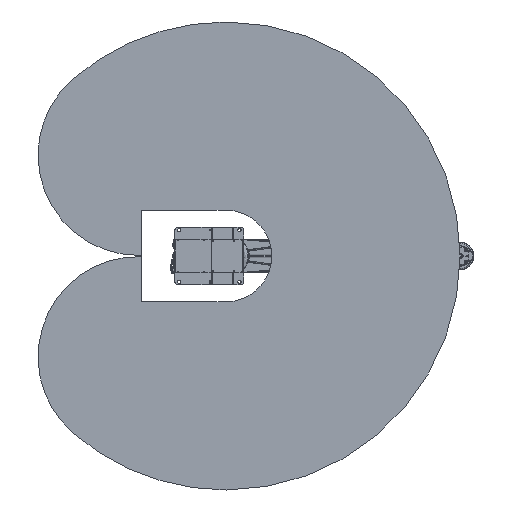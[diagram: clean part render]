
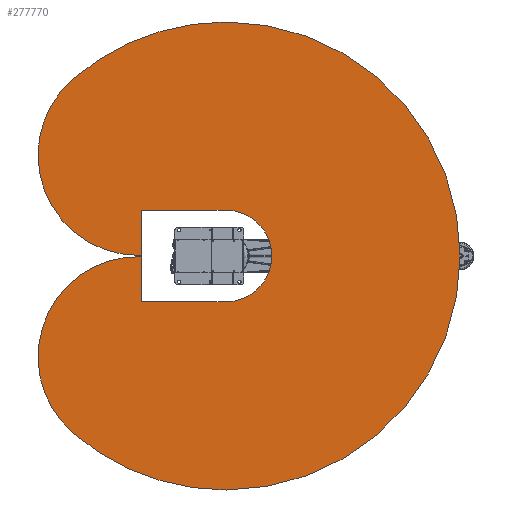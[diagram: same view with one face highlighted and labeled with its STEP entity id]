
A CAD part, front view. The second image highlights one B-rep face of the part: STEP entity #277770.
In plain terms, the highlighted planar face has unit normal (0, -1, 0).
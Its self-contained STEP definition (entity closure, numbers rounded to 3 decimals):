
#3058 = DIRECTION ( 'NONE',  ( 0., 0., 1. ) ) ;
#4814 = AXIS2_PLACEMENT_3D ( 'NONE', #194294, #52898, #218019 ) ;
#7958 = ORIENTED_EDGE ( 'NONE', *, *, #115625, .F. ) ;
#13749 = CIRCLE ( 'NONE', #297699, 450. ) ;
#26146 = EDGE_CURVE ( 'NONE', #130712, #76736, #246939, .T. ) ;
#26284 = LINE ( 'NONE', #76406, #137053 ) ;
#30250 = CIRCLE ( 'NONE', #149651, 1050. ) ;
#40312 = AXIS2_PLACEMENT_3D ( 'NONE', #52092, #217203, #75897 ) ;
#46955 = EDGE_CURVE ( 'NONE', #127415, #76736, #26284, .T. ) ;
#49507 = CIRCLE ( 'NONE', #232492, 450. ) ;
#50514 = EDGE_CURVE ( 'NONE', #96334, #218865, #217054, .T. ) ;
#51993 = CARTESIAN_POINT ( 'NONE',  ( -140.152, -189.756, -205.212 ) ) ;
#52092 = CARTESIAN_POINT ( 'NONE',  ( -533.787, -189.756, -452.826 ) ) ;
#52898 = DIRECTION ( 'NONE',  ( 0., 1., 0. ) ) ;
#57284 = DIRECTION ( 'NONE',  ( 0., 1., 0. ) ) ;
#57322 = EDGE_CURVE ( 'NONE', #246729, #110960, #80583, .T. ) ;
#69119 = PLANE ( 'NONE',  #122697 ) ;
#71279 = EDGE_CURVE ( 'NONE', #127415, #280077, #13749, .T. ) ;
#75897 = DIRECTION ( 'NONE',  ( 0., 0., 1. ) ) ;
#76406 = CARTESIAN_POINT ( 'NONE',  ( -520.152, -189.756, 0. ) ) ;
#76736 = VERTEX_POINT ( 'NONE', #261539 ) ;
#78819 = DIRECTION ( 'NONE',  ( 0., 1., 0. ) ) ;
#78912 = ORIENTED_EDGE ( 'NONE', *, *, #50514, .T. ) ;
#80583 = CIRCLE ( 'NONE', #40312, 450. ) ;
#87498 = CARTESIAN_POINT ( 'NONE',  ( -520.152, -189.756, -205.212 ) ) ;
#88888 = DIRECTION ( 'NONE',  ( 0., 1., 0. ) ) ;
#92295 = LINE ( 'NONE', #259599, #147590 ) ;
#93920 = ORIENTED_EDGE ( 'NONE', *, *, #57322, .F. ) ;
#95587 = CARTESIAN_POINT ( 'NONE',  ( -140.152, -189.756, 0. ) ) ;
#96334 = VERTEX_POINT ( 'NONE', #258146 ) ;
#98216 = CARTESIAN_POINT ( 'NONE',  ( -140.152, -189.756, 205.212 ) ) ;
#100051 = DIRECTION ( 'NONE',  ( 0., 0., 1. ) ) ;
#110960 = VERTEX_POINT ( 'NONE', #166671 ) ;
#111894 = VERTEX_POINT ( 'NONE', #246749 ) ;
#115625 = EDGE_CURVE ( 'NONE', #280077, #140279, #49507, .T. ) ;
#115952 = CARTESIAN_POINT ( 'NONE',  ( -140.152, -189.756, 205.212 ) ) ;
#116494 = DIRECTION ( 'NONE',  ( 0., 0., 1. ) ) ;
#117040 = EDGE_CURVE ( 'NONE', #111894, #199219, #148691, .T. ) ;
#117868 = EDGE_CURVE ( 'NONE', #140279, #111894, #30250, .T. ) ;
#119294 = DIRECTION ( 'NONE',  ( 0., 0., 1. ) ) ;
#122697 = AXIS2_PLACEMENT_3D ( 'NONE', #209447, #258020, #116494 ) ;
#124446 = ORIENTED_EDGE ( 'NONE', *, *, #71279, .F. ) ;
#127415 = VERTEX_POINT ( 'NONE', #202329 ) ;
#130712 = VERTEX_POINT ( 'NONE', #115952 ) ;
#134521 = EDGE_CURVE ( 'NONE', #218865, #110960, #92295, .T. ) ;
#137053 = VECTOR ( 'NONE', #100051, 1000. ) ;
#140279 = VERTEX_POINT ( 'NONE', #183174 ) ;
#144437 = DIRECTION ( 'NONE',  ( 0., 1., 0. ) ) ;
#147590 = VECTOR ( 'NONE', #213022, 1000. ) ;
#148342 = ORIENTED_EDGE ( 'NONE', *, *, #234235, .T. ) ;
#148691 = CIRCLE ( 'NONE', #161400, 1050. ) ;
#149651 = AXIS2_PLACEMENT_3D ( 'NONE', #198666, #57284, #222387 ) ;
#151958 = EDGE_CURVE ( 'NONE', #199219, #246729, #274023, .T. ) ;
#153086 = ORIENTED_EDGE ( 'NONE', *, *, #151958, .F. ) ;
#158399 = EDGE_LOOP ( 'NONE', ( #260172, #148342, #78912, #282895, #93920, #153086, #197254, #305297, #7958, #124446, #300125 ) ) ;
#159633 = AXIS2_PLACEMENT_3D ( 'NONE', #95587, #260840, #119294 ) ;
#161400 = AXIS2_PLACEMENT_3D ( 'NONE', #230250, #88888, #254064 ) ;
#166113 = CIRCLE ( 'NONE', #4814, 205.212 ) ;
#166671 = CARTESIAN_POINT ( 'NONE',  ( -520.152, -189.756, -3.032 ) ) ;
#169599 = DIRECTION ( 'NONE',  ( -1., 0., 0. ) ) ;
#174630 = CARTESIAN_POINT ( 'NONE',  ( -140.152, -189.756, -1050. ) ) ;
#180132 = FACE_OUTER_BOUND ( 'NONE', #158399, .T. ) ;
#183174 = CARTESIAN_POINT ( 'NONE',  ( -829.014, -189.756, 792.445 ) ) ;
#184102 = VECTOR ( 'NONE', #263503, 1000. ) ;
#189295 = CARTESIAN_POINT ( 'NONE',  ( -829.014, -189.756, -792.445 ) ) ;
#194294 = CARTESIAN_POINT ( 'NONE',  ( -140.152, -189.756, 0. ) ) ;
#197254 = ORIENTED_EDGE ( 'NONE', *, *, #117040, .F. ) ;
#198666 = CARTESIAN_POINT ( 'NONE',  ( -140.152, -189.756, 0. ) ) ;
#199219 = VERTEX_POINT ( 'NONE', #174630 ) ;
#202269 = VECTOR ( 'NONE', #169599, 1000. ) ;
#202329 = CARTESIAN_POINT ( 'NONE',  ( -520.152, -189.756, 3.032 ) ) ;
#209447 = CARTESIAN_POINT ( 'NONE',  ( -140.152, -189.756, 0. ) ) ;
#213022 = DIRECTION ( 'NONE',  ( 0., 0., 1. ) ) ;
#217054 = LINE ( 'NONE', #51993, #202269 ) ;
#217203 = DIRECTION ( 'NONE',  ( 0., 1., 0. ) ) ;
#218019 = DIRECTION ( 'NONE',  ( 0., 0., 1. ) ) ;
#218865 = VERTEX_POINT ( 'NONE', #87498 ) ;
#220123 = CARTESIAN_POINT ( 'NONE',  ( -533.787, -189.756, 452.826 ) ) ;
#221207 = CARTESIAN_POINT ( 'NONE',  ( -533.787, -189.756, 2.826 ) ) ;
#222387 = DIRECTION ( 'NONE',  ( 0., 0., 1. ) ) ;
#230250 = CARTESIAN_POINT ( 'NONE',  ( -140.152, -189.756, 0. ) ) ;
#232492 = AXIS2_PLACEMENT_3D ( 'NONE', #286051, #144437, #3058 ) ;
#234235 = EDGE_CURVE ( 'NONE', #130712, #96334, #166113, .T. ) ;
#243918 = DIRECTION ( 'NONE',  ( 0., 0., 1. ) ) ;
#246729 = VERTEX_POINT ( 'NONE', #189295 ) ;
#246749 = CARTESIAN_POINT ( 'NONE',  ( -140.152, -189.756, 1050. ) ) ;
#246939 = LINE ( 'NONE', #98216, #184102 ) ;
#254064 = DIRECTION ( 'NONE',  ( 0., 0., 1. ) ) ;
#258020 = DIRECTION ( 'NONE',  ( 0., 1., 0. ) ) ;
#258146 = CARTESIAN_POINT ( 'NONE',  ( -140.152, -189.756, -205.212 ) ) ;
#259599 = CARTESIAN_POINT ( 'NONE',  ( -520.152, -189.756, 0. ) ) ;
#260172 = ORIENTED_EDGE ( 'NONE', *, *, #26146, .F. ) ;
#260840 = DIRECTION ( 'NONE',  ( 0., 1., 0. ) ) ;
#261539 = CARTESIAN_POINT ( 'NONE',  ( -520.152, -189.756, 205.212 ) ) ;
#263503 = DIRECTION ( 'NONE',  ( -1., 0., 0. ) ) ;
#274023 = CIRCLE ( 'NONE', #159633, 1050. ) ;
#277770 = ADVANCED_FACE ( 'NONE', ( #180132 ), #69119, .F. ) ;
#280077 = VERTEX_POINT ( 'NONE', #221207 ) ;
#282895 = ORIENTED_EDGE ( 'NONE', *, *, #134521, .T. ) ;
#286051 = CARTESIAN_POINT ( 'NONE',  ( -533.787, -189.756, 452.826 ) ) ;
#297699 = AXIS2_PLACEMENT_3D ( 'NONE', #220123, #78819, #243918 ) ;
#300125 = ORIENTED_EDGE ( 'NONE', *, *, #46955, .T. ) ;
#305297 = ORIENTED_EDGE ( 'NONE', *, *, #117868, .F. ) ;
